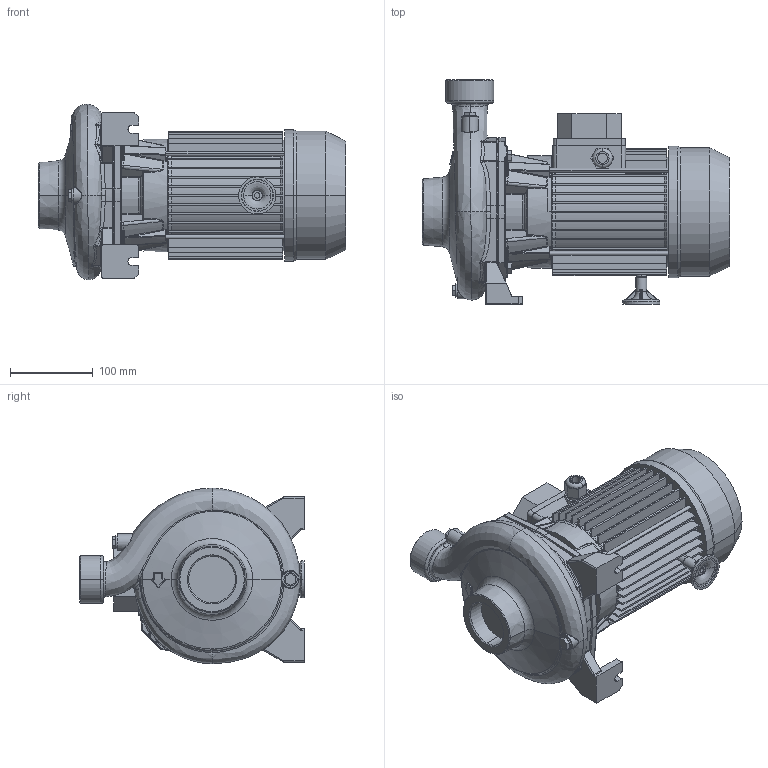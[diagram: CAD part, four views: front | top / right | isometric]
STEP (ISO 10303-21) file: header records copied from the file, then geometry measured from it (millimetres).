
FILE_DESCRIPTION((''),'2;1');
FILE_NAME('CMB_200T_IE2_ASM','2014-10-03T',('Rosa'),('"Ebara Pumps Europe +39.444.706811"'),'PRO/ENGINEER BY PARAMETRIC TECHNOLOGY CORPORATION, 2009360','PRO/ENGINEER BY PARAMETRIC TECHNOLOGY CORPORATION, 2009360','');
FILE_SCHEMA(('AUTOMOTIVE_DESIGN { 1 0 10303 214 1 1 1 1 }'));
Length unit declared in the file: millimetre
Products named in the file (5): MEC_80X120_IE2; 80536; 20519; 72002; CMB_200T_IE2_ASM
Assembly tree (4 placements, depth 2):
  CMB_200T_IE2_ASM
    MEC_80X120_IE2
    80536
    20519
    72002
Bounding box: 372 x 271.5 x 212.47 mm (x, y, z)
Volume: 5092731.8 mm3; surface area: 583113.4 mm2
Topology: 4 solids, 10 shells, 1375 faces, 3280 edges, 1952 vertices
Faces by surface type: plane 422, bspline 399, cylinder 322, cone 111, torus 97, sphere 23, extrusion 1
Entity records: 70774 total; most frequent: CARTESIAN_POINT 31370, ORIENTED_EDGE 6528, DIRECTION 5485, EDGE_CURVE 3272, PRESENTATION_STYLE_ASSIGNMENT 2451, STYLED_ITEM 2451, CURVE_STYLE 2295, AXIS2_PLACEMENT_3D 2166
